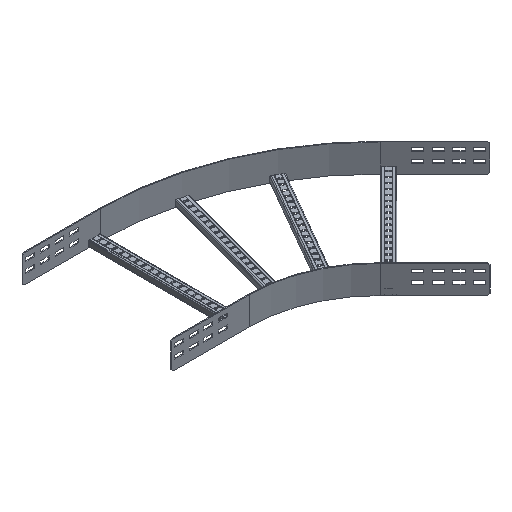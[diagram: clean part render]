
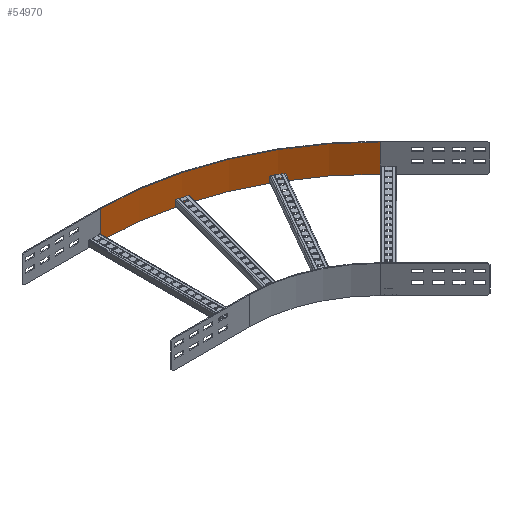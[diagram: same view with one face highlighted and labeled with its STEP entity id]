
A CAD part, isometric view. The second image highlights one B-rep face of the part: STEP entity #54970.
In plain terms, the highlighted cylindrical face has radius 955 mm (diameter 1910 mm), a partial arc.
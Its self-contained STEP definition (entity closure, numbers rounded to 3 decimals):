
#47980=CARTESIAN_POINT('',(0.,401.,-50.))
;
#47990=VERTEX_POINT('',#47980);
#48020=CARTESIAN_POINT('',(0.,401.,-50.))
;
#48030=DIRECTION('',(0.,0.,1.));
#48040=VECTOR('',#48030,1.);
#48050=LINE('',#48020,#48040);
#48060=CARTESIAN_POINT('',(0.,401.,-145.));
#48070=VERTEX_POINT('',#48060);
#48080=EDGE_CURVE('',#48070,#47990,#48050,.T.);
#54470=CARTESIAN_POINT('',(675.287,121.287,
-50.));
#54480=VERTEX_POINT('',#54470);
#54510=CARTESIAN_POINT('',(0.,-554.,-50.)
);
#54520=DIRECTION('',(0.,0.,1.));
#54530=DIRECTION('',(-0.707,-0.707,0.));
#54540=AXIS2_PLACEMENT_3D('',#54510,#54520,#54530);
#54550=CIRCLE('',#54540,955.);
#54560=EDGE_CURVE('',#54480,#47990,#54550,.T.);
#54730=CARTESIAN_POINT('',(0.,-554.,-50.)
);
#54740=DIRECTION('',(0.,0.,1.));
#54750=DIRECTION('',(-0.707,-0.707,0.));
#54760=AXIS2_PLACEMENT_3D('',#54730,#54740,#54750);
#54770=CYLINDRICAL_SURFACE('',#54760,955.);
#54780=CARTESIAN_POINT('',(675.287,121.287,
-50.));
#54790=DIRECTION('',(0.,0.,1.));
#54800=VECTOR('',#54790,1.);
#54810=LINE('',#54780,#54800);
#54820=CARTESIAN_POINT('',(675.287,121.287,-145.));
#54830=VERTEX_POINT('',#54820);
#54840=EDGE_CURVE('',#54830,#54480,#54810,.T.);
#54850=ORIENTED_EDGE('',*,*,#54840,.T.);
#54860=CARTESIAN_POINT('',(0.,-554.,-145.));
#54870=DIRECTION('',(0.,0.,1.));
#54880=DIRECTION('',(-0.707,-0.707,0.));
#54890=AXIS2_PLACEMENT_3D('',#54860,#54870,#54880);
#54900=CIRCLE('',#54890,955.);
#54910=EDGE_CURVE('',#54830,#48070,#54900,.T.);
#54920=ORIENTED_EDGE('',*,*,#54910,.F.);
#54930=ORIENTED_EDGE('',*,*,#48080,.F.);
#54940=ORIENTED_EDGE('',*,*,#54560,.T.);
#54950=EDGE_LOOP('',(#54940,#54930,#54920,#54850));
#54960=FACE_OUTER_BOUND('',#54950,.T.);
#54970=ADVANCED_FACE('',(#54960),#54770,.F.);
